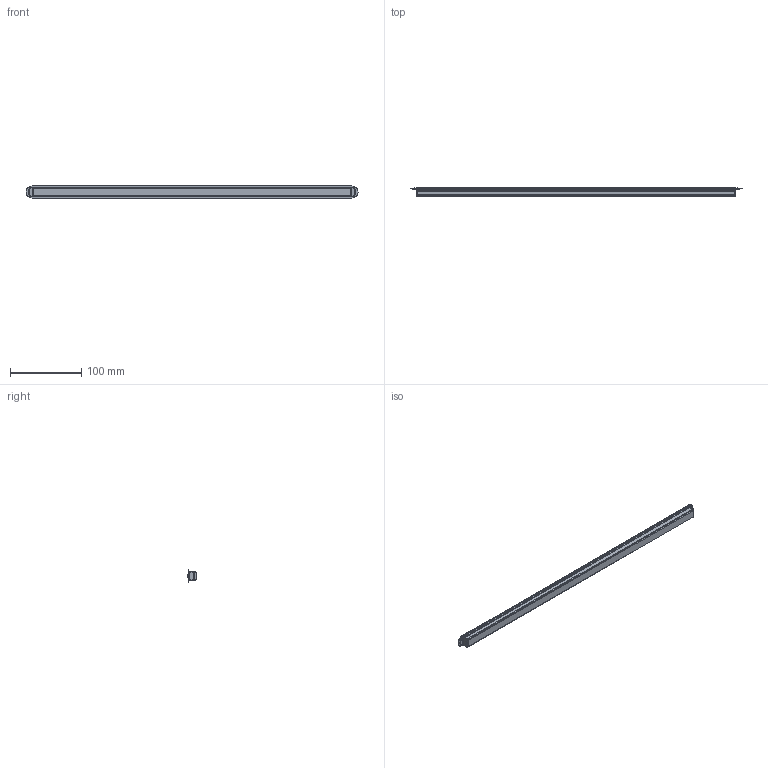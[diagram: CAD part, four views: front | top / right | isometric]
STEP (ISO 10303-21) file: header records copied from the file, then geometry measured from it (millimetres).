
FILE_DESCRIPTION(/* description */ (''),/* implementation_level */ '2;1');
FILE_NAME(/* name */ '6113031_Malindi_Aluprofil_sldprt.stp',/* time_stamp */ '2019-06-07T07:27:26+02:00',/* author */ (''),/* organization */ (''),/* preprocessor_version */ 'ST-DEVELOPER v16.7',/* originating_system */ 'SIEMENS PLM Software NX 12.0',/* authorisation */ '');
FILE_SCHEMA (('AUTOMOTIVE_DESIGN { 1 0 10303 214 3 1 1 1 }'));
Length unit declared in the file: millimetre
Products named in the file (1): p.sc0DF892D9ppsb
Bounding box: 467 x 11.28 x 17 mm (x, y, z)
Volume: 68365.4 mm3; surface area: 37001.5 mm2
Topology: 1 solids, 1 shells, 206 faces, 570 edges, 368 vertices
Faces by surface type: plane 93, cylinder 79, bspline 12, torus 12, cone 8, sphere 2
Entity records: 7615 total; most frequent: CARTESIAN_POINT 2219, ORIENTED_EDGE 1140, DIRECTION 1130, EDGE_CURVE 570, AXIS2_PLACEMENT_3D 391, VERTEX_POINT 368, LINE 348, VECTOR 348
